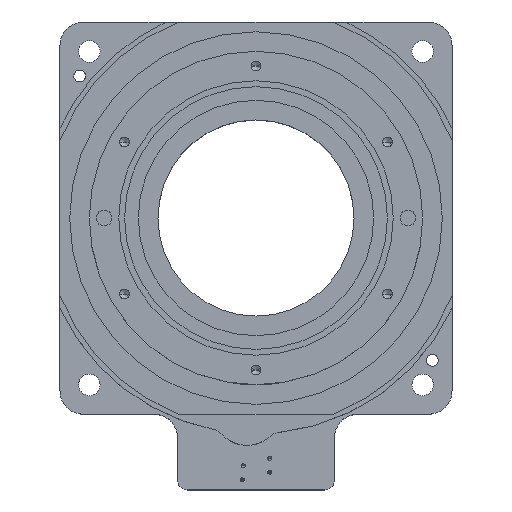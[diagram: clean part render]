
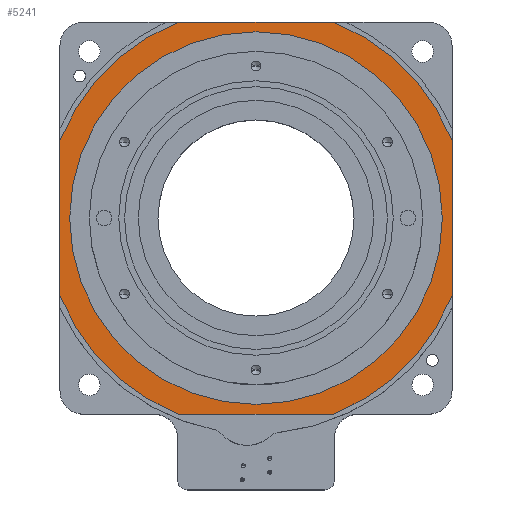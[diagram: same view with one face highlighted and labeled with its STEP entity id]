
A CAD part, top view. The second image highlights one B-rep face of the part: STEP entity #5241.
In plain terms, the highlighted planar face has unit normal (0, 0, 1).
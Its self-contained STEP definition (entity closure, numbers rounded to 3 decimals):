
#45 = CARTESIAN_POINT ( 'NONE',  ( -100., -39.449, 43. ) ) ;
#59 = VERTEX_POINT ( 'NONE', #6463 ) ;
#191 = CARTESIAN_POINT ( 'NONE',  ( 95., 0., 43. ) ) ;
#481 = AXIS2_PLACEMENT_3D ( 'NONE', #6522, #5506, #2394 ) ;
#626 = ORIENTED_EDGE ( 'NONE', *, *, #6328, .F. ) ;
#660 = CARTESIAN_POINT ( 'NONE',  ( -88., 100., 43. ) ) ;
#804 = EDGE_CURVE ( 'NONE', #2178, #2245, #4705, .T. ) ;
#805 = VECTOR ( 'NONE', #4564, 1000. ) ;
#878 = AXIS2_PLACEMENT_3D ( 'NONE', #3523, #1526, #5681 ) ;
#920 = ORIENTED_EDGE ( 'NONE', *, *, #6090, .T. ) ;
#980 = DIRECTION ( 'NONE',  ( 0., 0., 1. ) ) ;
#1063 = ORIENTED_EDGE ( 'NONE', *, *, #804, .T. ) ;
#1118 = CARTESIAN_POINT ( 'NONE',  ( -39.449, -100., 43. ) ) ;
#1221 = CARTESIAN_POINT ( 'NONE',  ( 100., 39.449, 43. ) ) ;
#1346 = AXIS2_PLACEMENT_3D ( 'NONE', #2286, #5899, #2809 ) ;
#1365 = CIRCLE ( 'NONE', #1346, 95. ) ;
#1385 = ORIENTED_EDGE ( 'NONE', *, *, #1578, .T. ) ;
#1419 = CARTESIAN_POINT ( 'NONE',  ( -39.449, 100., 43. ) ) ;
#1454 = VECTOR ( 'NONE', #3654, 1000. ) ;
#1526 = DIRECTION ( 'NONE',  ( 0., 0., 1. ) ) ;
#1578 = EDGE_CURVE ( 'NONE', #5075, #2807, #4815, .T. ) ;
#1579 = CIRCLE ( 'NONE', #1895, 107.5 ) ;
#1895 = AXIS2_PLACEMENT_3D ( 'NONE', #5190, #2082, #5717 ) ;
#1951 = LINE ( 'NONE', #1118, #3183 ) ;
#2029 = LINE ( 'NONE', #660, #4642 ) ;
#2082 = DIRECTION ( 'NONE',  ( 0., 0., 1. ) ) ;
#2172 = DIRECTION ( 'NONE',  ( 1., 0., 0. ) ) ;
#2178 = VERTEX_POINT ( 'NONE', #6080 ) ;
#2245 = VERTEX_POINT ( 'NONE', #4119 ) ;
#2286 = CARTESIAN_POINT ( 'NONE',  ( 0., 0., 43. ) ) ;
#2298 = EDGE_CURVE ( 'NONE', #6537, #59, #1579, .T. ) ;
#2394 = DIRECTION ( 'NONE',  ( -1., 0., 0. ) ) ;
#2452 = CARTESIAN_POINT ( 'NONE',  ( 0., 0., 43. ) ) ;
#2532 = FACE_BOUND ( 'NONE', #2879, .T. ) ;
#2543 = DIRECTION ( 'NONE',  ( 1., 0., 0. ) ) ;
#2595 = ORIENTED_EDGE ( 'NONE', *, *, #5390, .F. ) ;
#2807 = VERTEX_POINT ( 'NONE', #3430 ) ;
#2809 = DIRECTION ( 'NONE',  ( 1., 0., 0. ) ) ;
#2815 = DIRECTION ( 'NONE',  ( 0., 0., 1. ) ) ;
#2839 = LINE ( 'NONE', #5713, #1454 ) ;
#2879 = EDGE_LOOP ( 'NONE', ( #2595, #626 ) ) ;
#2924 = VERTEX_POINT ( 'NONE', #4594 ) ;
#2925 = AXIS2_PLACEMENT_3D ( 'NONE', #4121, #980, #4637 ) ;
#2936 = CIRCLE ( 'NONE', #2925, 95. ) ;
#3089 = CIRCLE ( 'NONE', #6712, 107.5 ) ;
#3183 = VECTOR ( 'NONE', #2172, 1000. ) ;
#3184 = ORIENTED_EDGE ( 'NONE', *, *, #5300, .T. ) ;
#3337 = VERTEX_POINT ( 'NONE', #3994 ) ;
#3430 = CARTESIAN_POINT ( 'NONE',  ( -39.449, -100., 43. ) ) ;
#3523 = CARTESIAN_POINT ( 'NONE',  ( 0., 0., 43. ) ) ;
#3594 = LINE ( 'NONE', #6084, #805 ) ;
#3654 = DIRECTION ( 'NONE',  ( 0., 1., 0. ) ) ;
#3994 = CARTESIAN_POINT ( 'NONE',  ( -95., 0., 43. ) ) ;
#4119 = CARTESIAN_POINT ( 'NONE',  ( 100., -39.449, 43. ) ) ;
#4121 = CARTESIAN_POINT ( 'NONE',  ( 0., 0., 43. ) ) ;
#4255 = VERTEX_POINT ( 'NONE', #191 ) ;
#4268 = ORIENTED_EDGE ( 'NONE', *, *, #6267, .T. ) ;
#4334 = DIRECTION ( 'NONE',  ( -1., 0., 0. ) ) ;
#4564 = DIRECTION ( 'NONE',  ( 0., -1., 0. ) ) ;
#4594 = CARTESIAN_POINT ( 'NONE',  ( 39.449, 100., 43. ) ) ;
#4637 = DIRECTION ( 'NONE',  ( 1., 0., 0. ) ) ;
#4642 = VECTOR ( 'NONE', #4334, 1000. ) ;
#4685 = DIRECTION ( 'NONE',  ( 0., 0., 1. ) ) ;
#4705 = CIRCLE ( 'NONE', #5330, 107.5 ) ;
#4815 = CIRCLE ( 'NONE', #878, 107.5 ) ;
#4975 = PLANE ( 'NONE',  #481 ) ;
#5075 = VERTEX_POINT ( 'NONE', #45 ) ;
#5118 = ORIENTED_EDGE ( 'NONE', *, *, #5576, .T. ) ;
#5190 = CARTESIAN_POINT ( 'NONE',  ( 0., 0., 43. ) ) ;
#5241 = ADVANCED_FACE ( 'NONE', ( #2532, #6497 ), #4975, .F. ) ;
#5300 = EDGE_CURVE ( 'NONE', #59, #5075, #3594, .T. ) ;
#5330 = AXIS2_PLACEMENT_3D ( 'NONE', #2452, #4685, #2543 ) ;
#5384 = ORIENTED_EDGE ( 'NONE', *, *, #6302, .T. ) ;
#5390 = EDGE_CURVE ( 'NONE', #4255, #3337, #2936, .T. ) ;
#5506 = DIRECTION ( 'NONE',  ( 0., 0., -1. ) ) ;
#5576 = EDGE_CURVE ( 'NONE', #2807, #2178, #1951, .T. ) ;
#5680 = VERTEX_POINT ( 'NONE', #1221 ) ;
#5681 = DIRECTION ( 'NONE',  ( 1., 0., 0. ) ) ;
#5713 = CARTESIAN_POINT ( 'NONE',  ( 100., 88., 43. ) ) ;
#5717 = DIRECTION ( 'NONE',  ( 1., 0., 0. ) ) ;
#5899 = DIRECTION ( 'NONE',  ( 0., 0., 1. ) ) ;
#5910 = CARTESIAN_POINT ( 'NONE',  ( 0., 0., 43. ) ) ;
#6080 = CARTESIAN_POINT ( 'NONE',  ( 39.449, -100., 43. ) ) ;
#6084 = CARTESIAN_POINT ( 'NONE',  ( -100., 88., 43. ) ) ;
#6090 = EDGE_CURVE ( 'NONE', #2245, #5680, #2839, .T. ) ;
#6267 = EDGE_CURVE ( 'NONE', #2924, #6537, #2029, .T. ) ;
#6302 = EDGE_CURVE ( 'NONE', #5680, #2924, #3089, .T. ) ;
#6328 = EDGE_CURVE ( 'NONE', #3337, #4255, #1365, .T. ) ;
#6432 = DIRECTION ( 'NONE',  ( 1., 0., 0. ) ) ;
#6463 = CARTESIAN_POINT ( 'NONE',  ( -100., 39.449, 43. ) ) ;
#6497 = FACE_OUTER_BOUND ( 'NONE', #6650, .T. ) ;
#6522 = CARTESIAN_POINT ( 'NONE',  ( -88., -88., 43. ) ) ;
#6537 = VERTEX_POINT ( 'NONE', #1419 ) ;
#6650 = EDGE_LOOP ( 'NONE', ( #6717, #3184, #1385, #5118, #1063, #920, #5384, #4268 ) ) ;
#6712 = AXIS2_PLACEMENT_3D ( 'NONE', #5910, #2815, #6432 ) ;
#6717 = ORIENTED_EDGE ( 'NONE', *, *, #2298, .T. ) ;
